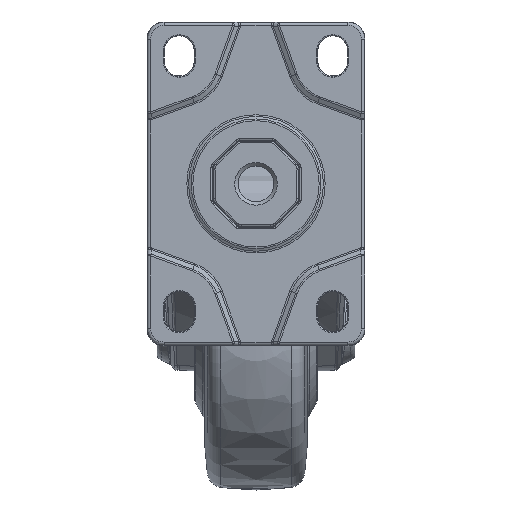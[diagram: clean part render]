
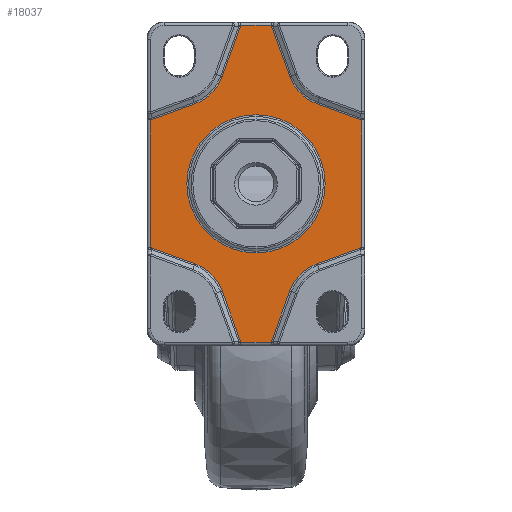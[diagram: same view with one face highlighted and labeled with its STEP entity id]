
A CAD part, top view. The second image highlights one B-rep face of the part: STEP entity #18037.
In plain terms, the highlighted planar face has unit normal (0, 0, 1).
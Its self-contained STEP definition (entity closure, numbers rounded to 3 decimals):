
#128=FACE_BOUND('',#3685,.T.);
#296=LINE('',#35937,#985);
#297=LINE('',#35941,#986);
#298=LINE('',#35945,#987);
#299=LINE('',#35949,#988);
#300=LINE('',#35953,#989);
#301=LINE('',#35957,#990);
#302=LINE('',#35961,#991);
#303=LINE('',#35965,#992);
#304=LINE('',#35969,#993);
#305=LINE('',#35973,#994);
#306=LINE('',#35977,#995);
#307=LINE('',#35981,#996);
#985=VECTOR('',#21584,10.);
#986=VECTOR('',#21587,10.);
#987=VECTOR('',#21590,10.);
#988=VECTOR('',#21593,10.);
#989=VECTOR('',#21596,10.);
#990=VECTOR('',#21599,10.);
#991=VECTOR('',#21602,10.);
#992=VECTOR('',#21605,10.);
#993=VECTOR('',#21608,10.);
#994=VECTOR('',#21611,10.);
#995=VECTOR('',#21614,10.);
#996=VECTOR('',#21617,10.);
#1587=PLANE('',#19408);
#1945=ELLIPSE('',#19409,4.217,2.);
#1946=ELLIPSE('',#19411,4.217,2.);
#1947=ELLIPSE('',#19412,4.217,2.);
#1948=ELLIPSE('',#19414,4.217,2.);
#1949=ELLIPSE('',#19415,4.217,2.);
#1950=ELLIPSE('',#19417,4.217,2.);
#1951=ELLIPSE('',#19418,4.217,2.);
#1952=ELLIPSE('',#19420,4.217,2.);
#2536=FACE_OUTER_BOUND('',#3684,.T.);
#3684=EDGE_LOOP('',(#13218,#13219,#13220,#13221,#13222,#13223,#13224,#13225,
#13226,#13227,#13228,#13229,#13230,#13231,#13232,#13233,#13234,#13235,#13236,
#13237,#13238,#13239,#13240,#13241));
#3685=EDGE_LOOP('',(#13242));
#4856=CIRCLE('',#19407,20.268);
#4857=CIRCLE('',#19410,13.382);
#4858=CIRCLE('',#19413,13.382);
#4859=CIRCLE('',#19416,13.382);
#4860=CIRCLE('',#19419,13.382);
#7280=VERTEX_POINT('',#35931);
#7281=VERTEX_POINT('',#35935);
#7282=VERTEX_POINT('',#35936);
#7283=VERTEX_POINT('',#35938);
#7284=VERTEX_POINT('',#35940);
#7285=VERTEX_POINT('',#35942);
#7286=VERTEX_POINT('',#35944);
#7287=VERTEX_POINT('',#35946);
#7288=VERTEX_POINT('',#35948);
#7289=VERTEX_POINT('',#35950);
#7290=VERTEX_POINT('',#35952);
#7291=VERTEX_POINT('',#35954);
#7292=VERTEX_POINT('',#35956);
#7293=VERTEX_POINT('',#35958);
#7294=VERTEX_POINT('',#35960);
#7295=VERTEX_POINT('',#35962);
#7296=VERTEX_POINT('',#35964);
#7297=VERTEX_POINT('',#35966);
#7298=VERTEX_POINT('',#35968);
#7299=VERTEX_POINT('',#35970);
#7300=VERTEX_POINT('',#35972);
#7301=VERTEX_POINT('',#35974);
#7302=VERTEX_POINT('',#35976);
#7303=VERTEX_POINT('',#35978);
#7304=VERTEX_POINT('',#35980);
#9443=EDGE_CURVE('',#7280,#7280,#4856,.T.);
#9444=EDGE_CURVE('',#7281,#7282,#296,.T.);
#9445=EDGE_CURVE('',#7283,#7281,#1945,.T.);
#9446=EDGE_CURVE('',#7284,#7283,#297,.T.);
#9447=EDGE_CURVE('',#7285,#7284,#4857,.T.);
#9448=EDGE_CURVE('',#7286,#7285,#298,.T.);
#9449=EDGE_CURVE('',#7287,#7286,#1946,.T.);
#9450=EDGE_CURVE('',#7288,#7287,#299,.T.);
#9451=EDGE_CURVE('',#7289,#7288,#1947,.T.);
#9452=EDGE_CURVE('',#7290,#7289,#300,.T.);
#9453=EDGE_CURVE('',#7291,#7290,#4858,.T.);
#9454=EDGE_CURVE('',#7292,#7291,#301,.T.);
#9455=EDGE_CURVE('',#7293,#7292,#1948,.T.);
#9456=EDGE_CURVE('',#7294,#7293,#302,.T.);
#9457=EDGE_CURVE('',#7294,#7295,#1949,.T.);
#9458=EDGE_CURVE('',#7295,#7296,#303,.T.);
#9459=EDGE_CURVE('',#7296,#7297,#4859,.T.);
#9460=EDGE_CURVE('',#7297,#7298,#304,.T.);
#9461=EDGE_CURVE('',#7298,#7299,#1950,.T.);
#9462=EDGE_CURVE('',#7299,#7300,#305,.T.);
#9463=EDGE_CURVE('',#7300,#7301,#1951,.T.);
#9464=EDGE_CURVE('',#7301,#7302,#306,.T.);
#9465=EDGE_CURVE('',#7302,#7303,#4860,.T.);
#9466=EDGE_CURVE('',#7303,#7304,#307,.T.);
#9467=EDGE_CURVE('',#7304,#7282,#1952,.T.);
#13218=ORIENTED_EDGE('',*,*,#9444,.F.);
#13219=ORIENTED_EDGE('',*,*,#9445,.F.);
#13220=ORIENTED_EDGE('',*,*,#9446,.F.);
#13221=ORIENTED_EDGE('',*,*,#9447,.F.);
#13222=ORIENTED_EDGE('',*,*,#9448,.F.);
#13223=ORIENTED_EDGE('',*,*,#9449,.F.);
#13224=ORIENTED_EDGE('',*,*,#9450,.F.);
#13225=ORIENTED_EDGE('',*,*,#9451,.F.);
#13226=ORIENTED_EDGE('',*,*,#9452,.F.);
#13227=ORIENTED_EDGE('',*,*,#9453,.F.);
#13228=ORIENTED_EDGE('',*,*,#9454,.F.);
#13229=ORIENTED_EDGE('',*,*,#9455,.F.);
#13230=ORIENTED_EDGE('',*,*,#9456,.F.);
#13231=ORIENTED_EDGE('',*,*,#9457,.T.);
#13232=ORIENTED_EDGE('',*,*,#9458,.T.);
#13233=ORIENTED_EDGE('',*,*,#9459,.T.);
#13234=ORIENTED_EDGE('',*,*,#9460,.T.);
#13235=ORIENTED_EDGE('',*,*,#9461,.T.);
#13236=ORIENTED_EDGE('',*,*,#9462,.T.);
#13237=ORIENTED_EDGE('',*,*,#9463,.T.);
#13238=ORIENTED_EDGE('',*,*,#9464,.T.);
#13239=ORIENTED_EDGE('',*,*,#9465,.T.);
#13240=ORIENTED_EDGE('',*,*,#9466,.T.);
#13241=ORIENTED_EDGE('',*,*,#9467,.T.);
#13242=ORIENTED_EDGE('',*,*,#9443,.F.);
#18037=ADVANCED_FACE('',(#2536,#128),#1587,.F.);
#19407=AXIS2_PLACEMENT_3D('',#35933,#21580,#21581);
#19408=AXIS2_PLACEMENT_3D('',#35934,#21582,#21583);
#19409=AXIS2_PLACEMENT_3D('',#35939,#21585,#21586);
#19410=AXIS2_PLACEMENT_3D('',#35943,#21588,#21589);
#19411=AXIS2_PLACEMENT_3D('',#35947,#21591,#21592);
#19412=AXIS2_PLACEMENT_3D('',#35951,#21594,#21595);
#19413=AXIS2_PLACEMENT_3D('',#35955,#21597,#21598);
#19414=AXIS2_PLACEMENT_3D('',#35959,#21600,#21601);
#19415=AXIS2_PLACEMENT_3D('',#35963,#21603,#21604);
#19416=AXIS2_PLACEMENT_3D('',#35967,#21606,#21607);
#19417=AXIS2_PLACEMENT_3D('',#35971,#21609,#21610);
#19418=AXIS2_PLACEMENT_3D('',#35975,#21612,#21613);
#19419=AXIS2_PLACEMENT_3D('',#35979,#21615,#21616);
#19420=AXIS2_PLACEMENT_3D('',#35982,#21618,#21619);
#21580=DIRECTION('center_axis',(0.,0.,1.));
#21581=DIRECTION('ref_axis',(0.,1.,0.));
#21582=DIRECTION('center_axis',(0.,0.,-1.));
#21583=DIRECTION('ref_axis',(0.,1.,0.));
#21584=DIRECTION('',(-1.,0.,0.));
#21585=DIRECTION('center_axis',(0.,0.,1.));
#21586=DIRECTION('ref_axis',(-1.,-0.019,0.));
#21587=DIRECTION('',(-0.342,-0.94,0.));
#21588=DIRECTION('center_axis',(0.,0.,1.));
#21589=DIRECTION('ref_axis',(-0.707,0.707,0.));
#21590=DIRECTION('',(-0.94,-0.342,0.));
#21591=DIRECTION('center_axis',(0.,0.,1.));
#21592=DIRECTION('ref_axis',(0.019,1.,0.));
#21593=DIRECTION('',(0.,-1.,0.));
#21594=DIRECTION('center_axis',(0.,0.,1.));
#21595=DIRECTION('ref_axis',(0.019,-1.,0.));
#21596=DIRECTION('',(0.94,-0.342,0.));
#21597=DIRECTION('center_axis',(0.,0.,1.));
#21598=DIRECTION('ref_axis',(-0.707,-0.707,0.));
#21599=DIRECTION('',(0.342,-0.94,0.));
#21600=DIRECTION('center_axis',(0.,0.,1.));
#21601=DIRECTION('ref_axis',(-1.,0.019,0.));
#21602=DIRECTION('',(1.,0.,0.));
#21603=DIRECTION('center_axis',(0.,0.,-1.));
#21604=DIRECTION('ref_axis',(1.,0.019,0.));
#21605=DIRECTION('',(-0.342,-0.94,0.));
#21606=DIRECTION('center_axis',(0.,0.,-1.));
#21607=DIRECTION('ref_axis',(0.707,-0.707,0.));
#21608=DIRECTION('',(-0.94,-0.342,0.));
#21609=DIRECTION('center_axis',(0.,0.,-1.));
#21610=DIRECTION('ref_axis',(-0.019,-1.,0.));
#21611=DIRECTION('',(0.,-1.,0.));
#21612=DIRECTION('center_axis',(0.,0.,-1.));
#21613=DIRECTION('ref_axis',(-0.019,1.,0.));
#21614=DIRECTION('',(0.94,-0.342,0.));
#21615=DIRECTION('center_axis',(0.,0.,-1.));
#21616=DIRECTION('ref_axis',(0.707,0.707,0.));
#21617=DIRECTION('',(0.342,-0.94,0.));
#21618=DIRECTION('center_axis',(0.,0.,-1.));
#21619=DIRECTION('ref_axis',(1.,-0.019,0.));
#35931=CARTESIAN_POINT('',(0.,-20.268,0.));
#35933=CARTESIAN_POINT('Origin',(0.,0.,0.));
#35934=CARTESIAN_POINT('Origin',(0.,0.,0.));
#35935=CARTESIAN_POINT('',(4.517,-46.464,0.));
#35936=CARTESIAN_POINT('',(-4.517,-46.464,0.));
#35937=CARTESIAN_POINT('',(16.,-46.464,0.));
#35938=CARTESIAN_POINT('',(4.579,-46.111,0.));
#35939=CARTESIAN_POINT('Origin',(8.734,-46.392,0.));
#35940=CARTESIAN_POINT('',(9.925,-31.423,0.));
#35941=CARTESIAN_POINT('',(11.595,-26.835,0.));
#35942=CARTESIAN_POINT('',(17.923,-23.425,0.));
#35943=CARTESIAN_POINT('Origin',(22.5,-36.,0.));
#35944=CARTESIAN_POINT('',(30.611,-18.807,0.));
#35945=CARTESIAN_POINT('',(13.774,-24.935,0.));
#35946=CARTESIAN_POINT('',(30.964,-18.745,0.));
#35947=CARTESIAN_POINT('Origin',(30.892,-22.962,0.));
#35948=CARTESIAN_POINT('',(30.964,18.745,0.));
#35949=CARTESIAN_POINT('',(30.964,23.75,0.));
#35950=CARTESIAN_POINT('',(30.611,18.807,0.));
#35951=CARTESIAN_POINT('Origin',(30.892,22.962,0.));
#35952=CARTESIAN_POINT('',(17.923,23.425,0.));
#35953=CARTESIAN_POINT('',(13.774,24.935,0.));
#35954=CARTESIAN_POINT('',(9.925,31.423,0.));
#35955=CARTESIAN_POINT('Origin',(22.5,36.,0.));
#35956=CARTESIAN_POINT('',(4.579,46.111,0.));
#35957=CARTESIAN_POINT('',(11.595,26.835,0.));
#35958=CARTESIAN_POINT('',(4.517,46.464,0.));
#35959=CARTESIAN_POINT('Origin',(8.734,46.392,0.));
#35960=CARTESIAN_POINT('',(-4.517,46.464,0.));
#35961=CARTESIAN_POINT('',(-16.,46.464,0.));
#35962=CARTESIAN_POINT('',(-4.579,46.111,0.));
#35963=CARTESIAN_POINT('Origin',(-8.734,46.392,0.));
#35964=CARTESIAN_POINT('',(-9.925,31.423,0.));
#35965=CARTESIAN_POINT('',(-11.595,26.835,0.));
#35966=CARTESIAN_POINT('',(-17.923,23.425,0.));
#35967=CARTESIAN_POINT('Origin',(-22.5,36.,0.));
#35968=CARTESIAN_POINT('',(-30.611,18.807,0.));
#35969=CARTESIAN_POINT('',(-13.774,24.935,0.));
#35970=CARTESIAN_POINT('',(-30.964,18.745,0.));
#35971=CARTESIAN_POINT('Origin',(-30.892,22.962,0.));
#35972=CARTESIAN_POINT('',(-30.964,-18.745,0.));
#35973=CARTESIAN_POINT('',(-30.964,23.75,0.));
#35974=CARTESIAN_POINT('',(-30.611,-18.807,0.));
#35975=CARTESIAN_POINT('Origin',(-30.892,-22.962,0.));
#35976=CARTESIAN_POINT('',(-17.923,-23.425,0.));
#35977=CARTESIAN_POINT('',(-13.774,-24.935,0.));
#35978=CARTESIAN_POINT('',(-9.925,-31.423,0.));
#35979=CARTESIAN_POINT('Origin',(-22.5,-36.,0.));
#35980=CARTESIAN_POINT('',(-4.579,-46.111,0.));
#35981=CARTESIAN_POINT('',(-11.595,-26.835,0.));
#35982=CARTESIAN_POINT('Origin',(-8.734,-46.392,0.));
